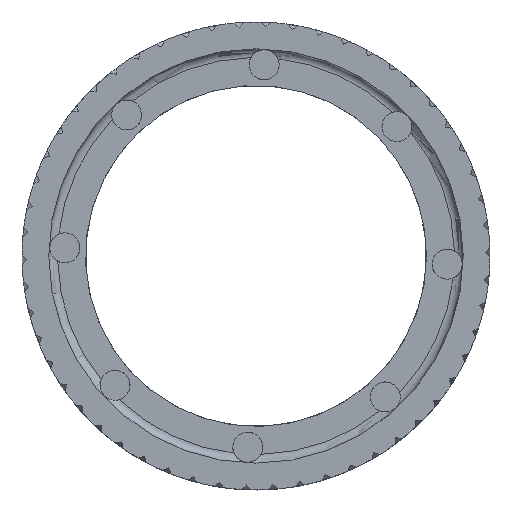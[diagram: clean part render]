
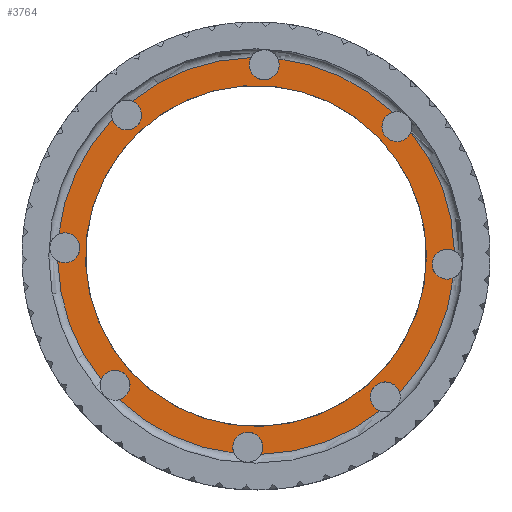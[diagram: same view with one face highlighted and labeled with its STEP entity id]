
A CAD part, top view. The second image highlights one B-rep face of the part: STEP entity #3764.
In plain terms, the highlighted planar face has unit normal (0, 0, 1).
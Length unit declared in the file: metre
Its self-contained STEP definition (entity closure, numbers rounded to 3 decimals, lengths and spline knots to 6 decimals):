
#698=ORIENTED_EDGE('',*,*,#1982,.T.);
#699=ORIENTED_EDGE('',*,*,#1983,.T.);
#700=ORIENTED_EDGE('',*,*,#1984,.T.);
#701=ORIENTED_EDGE('',*,*,#1985,.T.);
#702=ORIENTED_EDGE('',*,*,#1986,.T.);
#703=ORIENTED_EDGE('',*,*,#1987,.T.);
#704=ORIENTED_EDGE('',*,*,#1988,.T.);
#705=ORIENTED_EDGE('',*,*,#1989,.T.);
#706=ORIENTED_EDGE('',*,*,#1990,.T.);
#707=ORIENTED_EDGE('',*,*,#1991,.T.);
#708=ORIENTED_EDGE('',*,*,#1992,.T.);
#709=ORIENTED_EDGE('',*,*,#1993,.T.);
#710=ORIENTED_EDGE('',*,*,#1994,.T.);
#711=ORIENTED_EDGE('',*,*,#1995,.T.);
#712=ORIENTED_EDGE('',*,*,#1996,.T.);
#713=ORIENTED_EDGE('',*,*,#1997,.T.);
#714=ORIENTED_EDGE('',*,*,#1998,.T.);
#1982=EDGE_CURVE('',#2624,#2625,#3057,.F.);
#1983=EDGE_CURVE('',#2625,#2626,#3058,.T.);
#1984=EDGE_CURVE('',#2626,#2627,#3059,.F.);
#1985=EDGE_CURVE('',#2627,#2628,#3060,.T.);
#1986=EDGE_CURVE('',#2628,#2629,#3061,.F.);
#1987=EDGE_CURVE('',#2629,#2630,#3062,.T.);
#1988=EDGE_CURVE('',#2630,#2631,#3063,.F.);
#1989=EDGE_CURVE('',#2631,#2632,#3064,.T.);
#1990=EDGE_CURVE('',#2632,#2633,#3065,.F.);
#1991=EDGE_CURVE('',#2633,#2634,#3066,.T.);
#1992=EDGE_CURVE('',#2634,#2635,#3067,.F.);
#1993=EDGE_CURVE('',#2635,#2636,#3068,.T.);
#1994=EDGE_CURVE('',#2636,#2637,#3069,.F.);
#1995=EDGE_CURVE('',#2637,#2638,#3070,.T.);
#1996=EDGE_CURVE('',#2638,#2639,#3071,.F.);
#1997=EDGE_CURVE('',#2639,#2624,#3072,.T.);
#1998=EDGE_CURVE('',#2640,#2640,#3073,.T.);
#2624=VERTEX_POINT('',#4742);
#2625=VERTEX_POINT('',#4743);
#2626=VERTEX_POINT('',#4745);
#2627=VERTEX_POINT('',#4747);
#2628=VERTEX_POINT('',#4749);
#2629=VERTEX_POINT('',#4751);
#2630=VERTEX_POINT('',#4753);
#2631=VERTEX_POINT('',#4755);
#2632=VERTEX_POINT('',#4757);
#2633=VERTEX_POINT('',#4759);
#2634=VERTEX_POINT('',#4761);
#2635=VERTEX_POINT('',#4763);
#2636=VERTEX_POINT('',#4765);
#2637=VERTEX_POINT('',#4767);
#2638=VERTEX_POINT('',#4769);
#2639=VERTEX_POINT('',#4771);
#2640=VERTEX_POINT('',#4774);
#3057=CIRCLE('',#4005,0.03375);
#3058=CIRCLE('',#4006,0.00255);
#3059=CIRCLE('',#4007,0.03375);
#3060=CIRCLE('',#4008,0.00255);
#3061=CIRCLE('',#4009,0.03375);
#3062=CIRCLE('',#4010,0.00255);
#3063=CIRCLE('',#4011,0.03375);
#3064=CIRCLE('',#4012,0.00255);
#3065=CIRCLE('',#4013,0.03375);
#3066=CIRCLE('',#4014,0.00255);
#3067=CIRCLE('',#4015,0.03375);
#3068=CIRCLE('',#4016,0.00255);
#3069=CIRCLE('',#4017,0.03375);
#3070=CIRCLE('',#4018,0.00255);
#3071=CIRCLE('',#4019,0.03375);
#3072=CIRCLE('',#4020,0.00255);
#3073=CIRCLE('',#4021,0.029);
#3198=EDGE_LOOP('',(#698,#699,#700,#701,#702,#703,#704,#705,#706,#707,#708,
#709,#710,#711,#712,#713));
#3199=EDGE_LOOP('',(#714));
#3443=FACE_BOUND('',#3198,.T.);
#3444=FACE_BOUND('',#3199,.T.);
#3688=PLANE('',#4004);
#3764=ADVANCED_FACE('',(#3443,#3444),#3688,.F.);
#4004=AXIS2_PLACEMENT_3D('',#4740,#4239,#4240);
#4005=AXIS2_PLACEMENT_3D('',#4741,#4241,#4242);
#4006=AXIS2_PLACEMENT_3D('',#4744,#4243,#4244);
#4007=AXIS2_PLACEMENT_3D('',#4746,#4245,#4246);
#4008=AXIS2_PLACEMENT_3D('',#4748,#4247,#4248);
#4009=AXIS2_PLACEMENT_3D('',#4750,#4249,#4250);
#4010=AXIS2_PLACEMENT_3D('',#4752,#4251,#4252);
#4011=AXIS2_PLACEMENT_3D('',#4754,#4253,#4254);
#4012=AXIS2_PLACEMENT_3D('',#4756,#4255,#4256);
#4013=AXIS2_PLACEMENT_3D('',#4758,#4257,#4258);
#4014=AXIS2_PLACEMENT_3D('',#4760,#4259,#4260);
#4015=AXIS2_PLACEMENT_3D('',#4762,#4261,#4262);
#4016=AXIS2_PLACEMENT_3D('',#4764,#4263,#4264);
#4017=AXIS2_PLACEMENT_3D('',#4766,#4265,#4266);
#4018=AXIS2_PLACEMENT_3D('',#4768,#4267,#4268);
#4019=AXIS2_PLACEMENT_3D('',#4770,#4269,#4270);
#4020=AXIS2_PLACEMENT_3D('',#4772,#4271,#4272);
#4021=AXIS2_PLACEMENT_3D('',#4773,#4273,#4274);
#4239=DIRECTION('',(0.,0.,-1.));
#4240=DIRECTION('',(0.819,0.574,0.));
#4241=DIRECTION('',(0.,0.,-1.));
#4242=DIRECTION('',(1.,0.,0.));
#4243=DIRECTION('',(0.,0.,-1.));
#4244=DIRECTION('',(1.,0.,0.));
#4245=DIRECTION('',(0.,0.,-1.));
#4246=DIRECTION('',(1.,0.,0.));
#4247=DIRECTION('',(0.,0.,-1.));
#4248=DIRECTION('',(1.,0.,0.));
#4249=DIRECTION('',(0.,0.,-1.));
#4250=DIRECTION('',(1.,0.,0.));
#4251=DIRECTION('',(0.,0.,-1.));
#4252=DIRECTION('',(1.,0.,0.));
#4253=DIRECTION('',(0.,0.,-1.));
#4254=DIRECTION('',(1.,0.,0.));
#4255=DIRECTION('',(0.,0.,-1.));
#4256=DIRECTION('',(1.,0.,0.));
#4257=DIRECTION('',(0.,0.,-1.));
#4258=DIRECTION('',(1.,0.,0.));
#4259=DIRECTION('',(0.,0.,-1.));
#4260=DIRECTION('',(1.,0.,0.));
#4261=DIRECTION('',(0.,0.,-1.));
#4262=DIRECTION('',(1.,0.,0.));
#4263=DIRECTION('',(0.,0.,-1.));
#4264=DIRECTION('',(1.,0.,0.));
#4265=DIRECTION('',(0.,0.,-1.));
#4266=DIRECTION('',(1.,0.,0.));
#4267=DIRECTION('',(0.,0.,-1.));
#4268=DIRECTION('',(1.,0.,0.));
#4269=DIRECTION('',(0.,0.,-1.));
#4270=DIRECTION('',(1.,0.,0.));
#4271=DIRECTION('',(0.,0.,-1.));
#4272=DIRECTION('',(1.,0.,0.));
#4273=DIRECTION('',(0.,0.,-1.));
#4274=DIRECTION('',(1.,0.,0.));
#4740=CARTESIAN_POINT('',(0.,0.,0.0708));
#4741=CARTESIAN_POINT('',(0.,0.,0.0708));
#4742=CARTESIAN_POINT('',(-0.024459,0.023255,0.0708));
#4743=CARTESIAN_POINT('',(-0.033544,0.003724,0.0708));
#4744=CARTESIAN_POINT('',(-0.03252,0.001388,0.0708));
#4745=CARTESIAN_POINT('',(-0.033739,-0.000851,0.0708));
#4746=CARTESIAN_POINT('',(0.,0.,0.0708));
#4747=CARTESIAN_POINT('',(-0.026352,-0.021086,0.0708));
#4748=CARTESIAN_POINT('',(-0.023977,-0.022014,0.0708));
#4749=CARTESIAN_POINT('',(-0.023255,-0.024459,0.0708));
#4750=CARTESIAN_POINT('',(0.,0.,0.0708));
#4751=CARTESIAN_POINT('',(-0.003724,-0.033544,0.0708));
#4752=CARTESIAN_POINT('',(-0.001388,-0.03252,0.0708));
#4753=CARTESIAN_POINT('',(0.000851,-0.033739,0.0708));
#4754=CARTESIAN_POINT('',(0.,0.,0.0708));
#4755=CARTESIAN_POINT('',(0.021086,-0.026352,0.0708));
#4756=CARTESIAN_POINT('',(0.022014,-0.023977,0.0708));
#4757=CARTESIAN_POINT('',(0.024459,-0.023255,0.0708));
#4758=CARTESIAN_POINT('',(0.,0.,0.0708));
#4759=CARTESIAN_POINT('',(0.033544,-0.003724,0.0708));
#4760=CARTESIAN_POINT('',(0.03252,-0.001388,0.0708));
#4761=CARTESIAN_POINT('',(0.033739,0.000851,0.0708));
#4762=CARTESIAN_POINT('',(0.,0.,0.0708));
#4763=CARTESIAN_POINT('',(0.026352,0.021086,0.0708));
#4764=CARTESIAN_POINT('',(0.023977,0.022014,0.0708));
#4765=CARTESIAN_POINT('',(0.023255,0.024459,0.0708));
#4766=CARTESIAN_POINT('',(0.,0.,0.0708));
#4767=CARTESIAN_POINT('',(0.003724,0.033544,0.0708));
#4768=CARTESIAN_POINT('',(0.001388,0.03252,0.0708));
#4769=CARTESIAN_POINT('',(-0.000851,0.033739,0.0708));
#4770=CARTESIAN_POINT('',(0.,0.,0.0708));
#4771=CARTESIAN_POINT('',(-0.021086,0.026352,0.0708));
#4772=CARTESIAN_POINT('',(-0.022014,0.023977,0.0708));
#4773=CARTESIAN_POINT('',(0.,0.,0.0708));
#4774=CARTESIAN_POINT('',(0.029,0.,0.0708));
